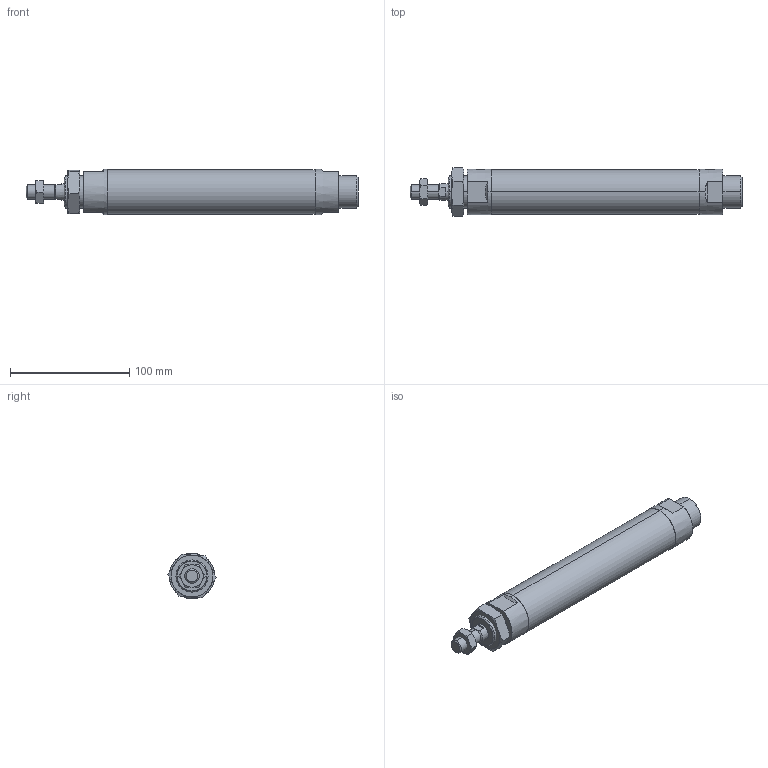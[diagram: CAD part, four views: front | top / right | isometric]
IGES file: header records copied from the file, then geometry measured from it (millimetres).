
Start section: SolidWorks IGES file using analytic representation for surfaces
Global section: file name: C:\Users\Toshiba\Desktop\J#2-32-125-N.IGS; native system: SolidWorks 2014; preprocessor: SolidWorks 2014; author: Toshiba; date: 160308.153923; units: millimetre
Bounding box: 278 x 40.33 x 38 mm (x, y, z)
Surface area: 36787.7 mm2 (no closed solid volume)
Topology: 0 solids, 0 shells, 94 faces, 1652 edges, 1648 vertices
Faces by surface type: bspline 57, revolution 37
